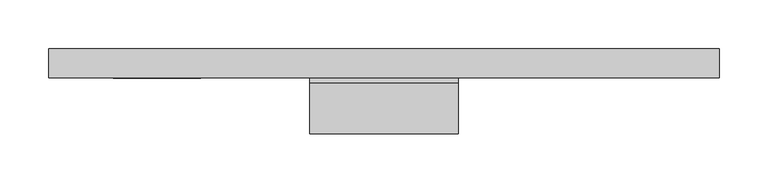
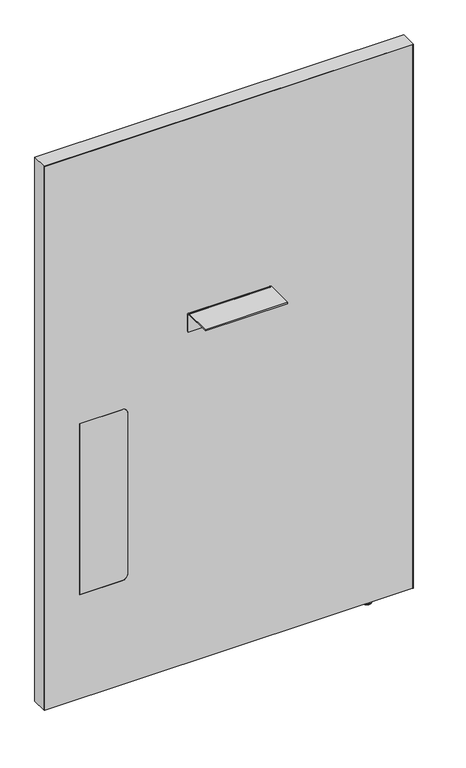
"""IFC4 building model written with IfcOpenShell, lengths in millimetres: furniture geometry, Steelcase - Answer Solution - Boundary Screen - Straight - Single Sided : 42H x 27W."""

from ifc_helpers import new_model, si_unit, point, frame, frame_2d, origin, place, context, project, spatial, polyline, circle_curve, ellipse_curve, trimmed, segment, composite_curve, outline, extrude, source, transform, mapped, element, save
from ifc_brep_helpers import plane_surface, cylinder_surface, revolved_surface, advanced_brep


def furniture_670475ac(model_context):
    return source(origin(), model_context, "Body", "SolidModel", [
        extrude(outline(composite_curve([segment(polyline([(-86.8398151, 696.4680019), (-86.8398151, 698.5), (-34.9450855, 698.5)]), True, "CONTINUOUS"), segment(trimmed(circle_curve(frame_2d((-34.9450855, 693.2447477)), 5.2552523), [point((-34.9450855, 698.5))], [point((-29.6898332, 693.2447477))], False, "CARTESIAN"), True, "CONTINUOUS"), segment(polyline([(-29.6898332, 693.2447477), (-29.6898332, 660.4), (-31.7218162, 660.4), (-31.7218162, 693.0058743)]), True, "CONTINUOUS"), segment(trimmed(circle_curve(frame_2d((-35.1839438, 693.0058743)), 3.4621276), [point((-31.7218162, 693.0058743))], [point((-35.1839438, 696.4680019))], True, "CARTESIAN"), True, "CONTINUOUS"), segment(polyline([(-35.1839438, 696.4680019), (-86.8398151, 696.4680019)]), True, "CONTINUOUS")], self_intersect=False)), frame((-379.7808593, 0.0, 0.0), z_axis=(1.0, 0.0, 0.0), x_axis=(0.0, 1.0, 0.0)), (0.0, 0.0, 1.0), 152.4000969),
        advanced_brep(
        [(-37.8713512, -23.7588726, 9.9059849), (-37.8713512, -5.9309607, 9.9059849), (-37.8713512, -14.8449166, 9.9059849), (-37.8713512, -23.7588726, 2.9673238), (-37.8713512, -5.9309607, 2.9673238), (-37.8713512, -22.7915354, 2.9673238), (-37.8713512, -6.8982978, 2.9673238), (-37.8713512, -22.7915354, 1.6569081), (-37.8713512, -6.8982978, 1.6569081), (-37.8713512, -21.1346274, 0.0), (-37.8713512, -8.5552059, 0.0), (-37.8713512, -14.8449166, 0.0)],
        [
            (0, 1, circle_curve(frame((-37.8713512, -14.8449166, 9.9059849), z_axis=(0.0, 0.0, 1.0), x_axis=(0.0, 1.0, 0.0)), 8.913956)),
            (1, 2),
            (2, 0),
            (1, 0, circle_curve(frame((-37.8713512, -14.8449166, 9.9059849), z_axis=(0.0, 0.0, 1.0), x_axis=(0.0, 1.0, 0.0)), 8.913956)),
            (3, 4, circle_curve(frame((-37.8713512, -14.8449166, 2.9673238), z_axis=(0.0, 0.0, 1.0), x_axis=(0.0, 1.0, 0.0)), 8.913956)),
            (4, 1),
            (0, 3),
            (4, 3, circle_curve(frame((-37.8713512, -14.8449166, 2.9673238), z_axis=(0.0, 0.0, 1.0), x_axis=(0.0, 1.0, 0.0)), 8.913956)),
            (5, 6, circle_curve(frame((-37.8713512, -14.8449166, 2.9673238), z_axis=(0.0, 0.0, 1.0), x_axis=(0.0, 1.0, 0.0)), 7.9466188)),
            (6, 4),
            (3, 5),
            (6, 5, circle_curve(frame((-37.8713512, -14.8449166, 2.9673238), z_axis=(0.0, 0.0, 1.0), x_axis=(0.0, 1.0, 0.0)), 7.9466188)),
            (7, 8, circle_curve(frame((-37.8713512, -14.8449166, 1.6569081), z_axis=(0.0, 0.0, 1.0), x_axis=(0.0, 1.0, 0.0)), 7.9466188)),
            (8, 6),
            (5, 7),
            (8, 7, circle_curve(frame((-37.8713512, -14.8449166, 1.6569081), z_axis=(0.0, 0.0, 1.0), x_axis=(0.0, 1.0, 0.0)), 7.9466188)),
            (9, 10, circle_curve(frame((-37.8713512, -14.8449166, 0.0), z_axis=(0.0, 0.0, 1.0), x_axis=(0.0, 1.0, 0.0)), 6.2897107)),
            (10, 8, circle_curve(frame((-37.8713512, -8.5552059, 1.6569081), z_axis=(1.0, 0.0, 0.0), x_axis=(0.0, 1.0, 0.0)), 1.6569081)),
            (7, 9, circle_curve(frame((-37.8713512, -21.1346274, 1.6569081), z_axis=(1.0, 0.0, 0.0), x_axis=(0.0, -1.0, 0.0)), 1.6569081)),
            (10, 9, circle_curve(frame((-37.8713512, -14.8449166, 0.0), z_axis=(0.0, 0.0, 1.0), x_axis=(0.0, 1.0, 0.0)), 6.2897107)),
            (11, 10),
            (9, 11),
        ],
        [
            plane_surface(frame((-37.8713512, -14.8449166, 9.9059849), z_axis=(0.0, 0.0, 1.0), x_axis=(0.0, 1.0, 0.0))),
            cylinder_surface(frame((-37.8713512, -14.8449166, 9.9059849), z_axis=(0.0, 0.0, -1.0), x_axis=(0.0, 1.0, 0.0)), 8.913956),
            plane_surface(frame((-37.8713512, -14.8449166, 2.9673238), z_axis=(0.0, 0.0, -1.0), x_axis=(0.0, 1.0, 0.0))),
            cylinder_surface(frame((-37.8713512, -14.8449166, 9.9059849), z_axis=(0.0, 0.0, -1.0), x_axis=(0.0, 1.0, 0.0)), 7.9466188),
            revolved_surface(trimmed(ellipse_curve(frame((-37.8713512, -8.5552059, 1.6569081), z_axis=(-1.0, 0.0, 0.0), x_axis=(0.0, 1.0, 0.0)), 1.6569081, 1.6569081), [point((-37.8713512, -6.8982978, 1.6569081))], [point((-37.8713512, -8.5552059, 0.0))], True, "CARTESIAN"), (-37.8713512, -14.8449166, 9.9059849), (0.0, 0.0, -1.0)),
            plane_surface(frame((-37.8713512, -14.8449166, 0.0), z_axis=(0.0, 0.0, -1.0), x_axis=(0.0, 1.0, 0.0))),
        ],
        [
            (0, [[1, 2, 3]]),
            (0, [[4, -3, -2]]),
            (1, [[5, 6, -1, 7]]),
            (1, [[8, -7, -4, -6]]),
            (2, [[9, 10, -5, 11]]),
            (2, [[12, -11, -8, -10]]),
            (3, [[13, 14, -9, 15]]),
            (3, [[16, -15, -12, -14]]),
            (4, [[17, 18, -13, 19]]),
            (4, [[20, -19, -16, -18]]),
            (5, [[21, -17, 22]]),
            (5, [[-22, -20, -21]]),
        ],
    ),
        advanced_brep(
        [(38.2780168, 0.0, 1076.742118), (38.2780168, 0.0, 9.9059849), (-645.4902221, 0.0, 9.9059849), (-645.4902221, 0.0, 1076.742118), (38.2780168, -29.6898332, 1076.742118), (-645.4902221, -29.6898332, 1076.742118), (-645.4902221, -29.6898332, 9.9059849), (38.2780168, -29.6898332, 9.9059849), (-501.1463873, -29.6898332, 549.6162029), (-490.9863873, -29.6898332, 539.4562029), (-490.9863873, -29.6898332, 223.9362137), (-501.1463873, -29.6898332, 213.7762137), (-580.800285, -29.6898332, 213.7762137), (-580.800285, -29.6898332, 549.6162029), (-580.800285, -29.0550397, 549.6162029), (-501.1463873, -29.0550397, 549.6162029), (-580.800285, -29.0550397, 213.7762137), (-501.1463873, -29.0550397, 213.7762137), (-490.9863873, -29.0550397, 223.9362137), (-490.9863873, -29.0550397, 539.4562029)],
        [
            (0, 1),
            (1, 2),
            (2, 3),
            (3, 0),
            (4, 5),
            (5, 6),
            (6, 7),
            (7, 4),
            (8, 9, circle_curve(frame((-501.1463873, -29.6898332, 539.4562029), z_axis=(0.0, 1.0, 0.0), x_axis=(0.0, 0.0, 1.0)), 10.16)),
            (9, 10),
            (10, 11, circle_curve(frame((-501.1463873, -29.6898332, 223.9362137), z_axis=(0.0, 1.0, 0.0), x_axis=(0.0, 0.0, 1.0)), 10.16)),
            (11, 12),
            (12, 13),
            (13, 8),
            (0, 4),
            (7, 1),
            (6, 2),
            (5, 3),
            (13, 14),
            (14, 15),
            (15, 8),
            (12, 16),
            (16, 14),
            (11, 17),
            (17, 16),
            (10, 18),
            (18, 17, circle_curve(frame((-501.1463873, -29.0550397, 223.9362137), z_axis=(0.0, 1.0, 0.0), x_axis=(0.0, 0.0, 1.0)), 10.16)),
            (9, 19),
            (19, 18),
            (15, 19, circle_curve(frame((-501.1463873, -29.0550397, 539.4562029), z_axis=(0.0, 1.0, 0.0), x_axis=(0.0, 0.0, 1.0)), 10.16)),
        ],
        [
            plane_surface(frame((38.2780168, 0.0, 1076.742118), z_axis=(0.0, 1.0, 0.0), x_axis=(0.0, 0.0, -1.0))),
            plane_surface(frame((38.2780168, -29.6898332, 1076.742118), z_axis=(0.0, -1.0, 0.0), x_axis=(0.0, 0.0, 1.0))),
            plane_surface(frame((38.2780168, 0.0, 1076.742118), z_axis=(1.0, 0.0, 0.0), x_axis=(0.0, -1.0, 0.0))),
            plane_surface(frame((38.2780168, 0.0, 9.9059849), z_axis=(0.0, 0.0, -1.0), x_axis=(0.0, -1.0, 0.0))),
            plane_surface(frame((-645.4902221, 0.0, 9.9059849), z_axis=(-1.0, 0.0, 0.0), x_axis=(0.0, -1.0, 0.0))),
            plane_surface(frame((-645.4902221, 0.0, 1076.742118), z_axis=(0.0, 0.0, 1.0), x_axis=(0.0, -1.0, 0.0))),
            plane_surface(frame((-501.1463873, 0.0, 549.6162029), z_axis=(0.0, 0.0, -1.0), x_axis=(0.0, -1.0, 0.0))),
            plane_surface(frame((-580.800285, 0.0, 549.6162029), z_axis=(1.0, 0.0, 0.0), x_axis=(0.0, -1.0, 0.0))),
            plane_surface(frame((-580.800285, 0.0, 213.7762137), z_axis=(0.0, 0.0, 1.0), x_axis=(0.0, -1.0, 0.0))),
            revolved_surface(polyline([(-501.1463873, -29.6898332, 234.0962137), (-501.1463873, -29.0550397, 234.0962137)]), (-501.1463873, -29.6898332, 223.9362137), (0.0, -1.0, 0.0)),
            plane_surface(frame((-490.9863873, 0.0, 223.9362137), z_axis=(-1.0, 0.0, 0.0), x_axis=(0.0, -1.0, 0.0))),
            revolved_surface(polyline([(-501.1463873, -29.6898332, 549.6162029), (-501.1463873, -29.0550397, 549.6162029)]), (-501.1463873, -29.6898332, 539.4562029), (0.0, -1.0, 0.0)),
            plane_surface(frame((-490.9863873, -29.0550397, 629.172953), z_axis=(0.0, -1.0, 0.0), x_axis=(0.0, 0.0, 1.0))),
        ],
        [
            (0, [[1, 2, 3, 4]]),
            (1, [[5, 6, 7, 8], [9, 10, 11, 12, 13, 14]]),
            (2, [[-1, 15, -8, 16]]),
            (3, [[-2, -16, -7, 17]]),
            (4, [[-3, -17, -6, 18]]),
            (5, [[-4, -18, -5, -15]]),
            (6, [[-14, 19, 20, 21]]),
            (7, [[-13, 22, 23, -19]]),
            (8, [[-12, 24, 25, -22]]),
            (9, [[-11, 26, 27, -24]]),
            (10, [[-10, 28, 29, -26]]),
            (11, [[-9, -21, 30, -28]]),
            (12, [[-20, -23, -25, -27, -29, -30]]),
        ],
    ),
        extrude(outline(composite_curve([segment(polyline([(549.6162029, -501.1463873), (549.6162029, -580.800285), (213.7762137, -580.800285), (213.7762137, -501.1463873)]), True, "CONTINUOUS"), segment(trimmed(circle_curve(frame_2d((223.9362137, -501.1463873)), 10.16), [point((213.7762137, -501.1463873))], [point((223.9362137, -490.9863873))], False, "CARTESIAN"), True, "CONTINUOUS"), segment(polyline([(223.9362137, -490.9863873), (539.4562029, -490.9863873)]), True, "CONTINUOUS"), segment(trimmed(circle_curve(frame_2d((539.4562029, -501.1463873)), 10.16), [point((539.4562029, -490.9863873))], [point((549.6162029, -501.1463873))], False, "CARTESIAN"), True, "CONTINUOUS")], self_intersect=False)), frame((0.0, -29.6898332, 0.0), z_axis=(0.0, 1.0, 0.0), x_axis=(0.0, 0.0, 1.0)), (0.0, 0.0, 1.0), 0.6347935),
        extrude(outline(polyline([(1077.722, 39.3191891), (1077.722, -646.4808109), (9.9059849, -646.4808109), (9.9059849, -645.4902221), (1076.742118, -645.4902221), (1076.742118, 38.2780168), (9.9059849, 38.2780168), (9.9059849, 39.3191891), (1077.722, 39.3191891)])), frame((0.0, -29.6898332, 0.0), z_axis=(0.0, 1.0, 0.0), x_axis=(0.0, 0.0, 1.0)), (0.0, 0.0, 1.0), 29.6898332),
    ])


if __name__ == "__main__":
    model = new_model("IFC4")
    model_context = context("Model", 3, world=origin())
    ifc_project = project(units=[si_unit("LENGTHUNIT", "METRE", prefix="MILLI")], contexts=[model_context])
    site = spatial("IfcSite", under=ifc_project)
    building = spatial("IfcBuilding", under=site)
    placement = place(None, origin())
    furniture_shape = furniture_670475ac(model_context)
    element("IfcFurniture", 1, ObjectType="Steelcase - Answer Solution - Boundary Screen - Straight - Single Sided : 42H x 27W", at=placement, inside=building, context=model_context, shape_type="MappedRepresentation", body=[
        mapped(furniture_shape, transform((0.0, 0.0, 0.0), x_axis=(1.0, 0.0, 0.0), y_axis=(0.0, 1.0, 0.0), z_axis=(0.0, 0.0, 1.0))),
    ])
    save(model, "model.ifc")
